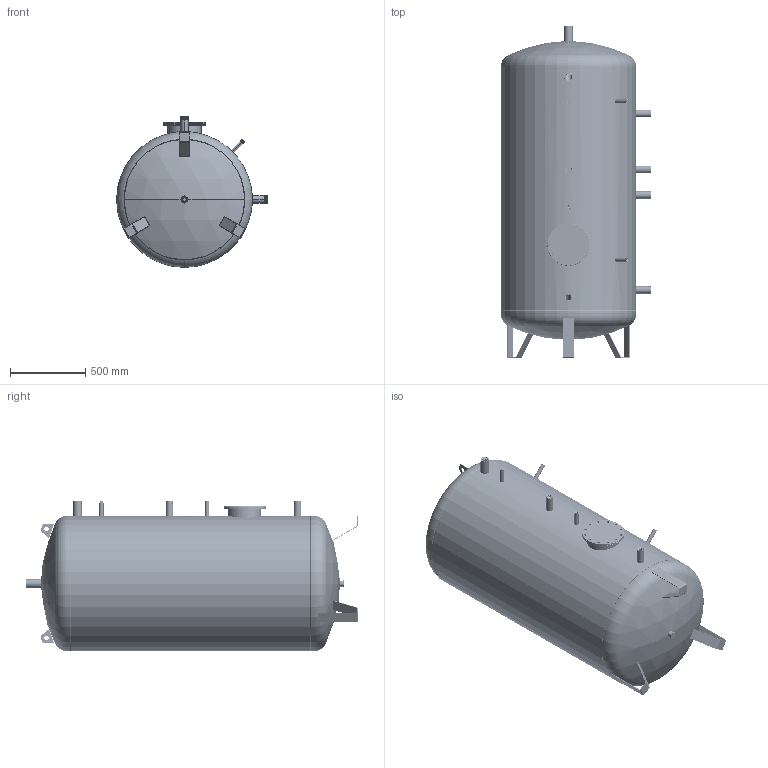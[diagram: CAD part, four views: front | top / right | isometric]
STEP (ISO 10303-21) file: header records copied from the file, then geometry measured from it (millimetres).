
FILE_DESCRIPTION (( 'STEP AP203' ), '1' );
FILE_NAME ('99.02091630-26N_3d.STEP', '2026-02-10T08:48:40', ( '' ), ( '' ), 'SwSTEP 2.0', 'SolidWorks 2025', '' );
FILE_SCHEMA (( 'CONFIG_CONTROL_DESIGN' ));
Length unit declared in the file: millimetre
Products named in the file (30): TML005557; TML001351; TML001043; TML014504; TML005497; Copy of Copy of vrtl_SCAMBIATORE^TML016226; vrtl_VIROLA-260209163645^TML016224; TML006222; TML000850_0085; TML000717; TML005311; TML000732; TML016225_Commerciale; TML000845_0238; TML001537; TML003648; TML000856; TML000847_075; TML000864; TML016226; TML001873_0078; TML006802_100|250; TML000720; TML005372; TML000854; TML009373; vrtl_SCAMBIATORE^TML016225; TML010726_100|250; 99.02091630-26N_3d
Assembly tree (41 placements, depth 4):
  99.02091630-26N_3d
    TML001351
    vrtl_VIROLA-260209163645^TML016224
    TML001351
    TML005311  x3
    TML000720
    TML003648
    TML000856  x2
      TML000717
      TML000847_075
    TML005372  x2
    TML000864  x4
      TML000732
      TML000850_0085
    TML014504
      TML001537
      TML005557
      TML005497
    TML000854  x2
      TML001043
      TML001873_0078
    TML010726_100|250
    TML006802_100|250
    TML006222
    TML016225_Commerciale
      vrtl_SCAMBIATORE^TML016225
      TML009373  x2
        TML001043
        TML000845_0238
    TML016226
      Copy of Copy of vrtl_SCAMBIATORE^TML016226
      TML009373  x2
        TML001043
        TML000845_0238
Bounding box: 1000 x 2200 x 1000 mm (x, y, z)
Volume: 30095615.3 mm3; surface area: 28929528.7 mm2
Topology: 45 solids, 45 shells, 1059 faces, 2536 edges, 1555 vertices
Faces by surface type: cylinder 406, bspline 355, plane 193, cone 83, torus 14, sphere 8
Full cylindrical faces by diameter (mm): 894 x1, 900 x1
Entity records: 497006 total; most frequent: CARTESIAN_POINT 478298, ORIENTED_EDGE 3524, DIRECTION 2612, EDGE_CURVE 1762, AXIS2_PLACEMENT_3D 1104, VERTEX_POINT 1056, EDGE_LOOP 868, FACE_OUTER_BOUND 744
